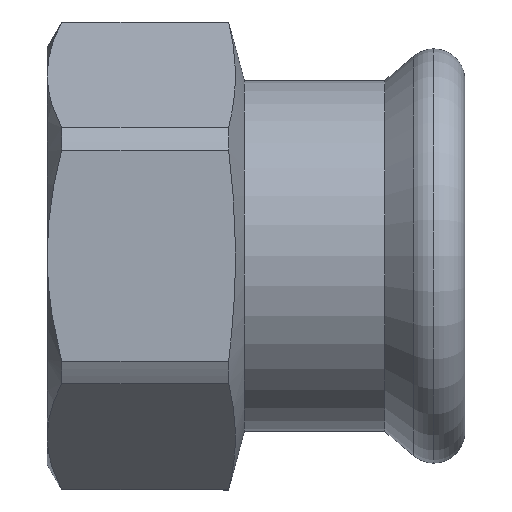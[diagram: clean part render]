
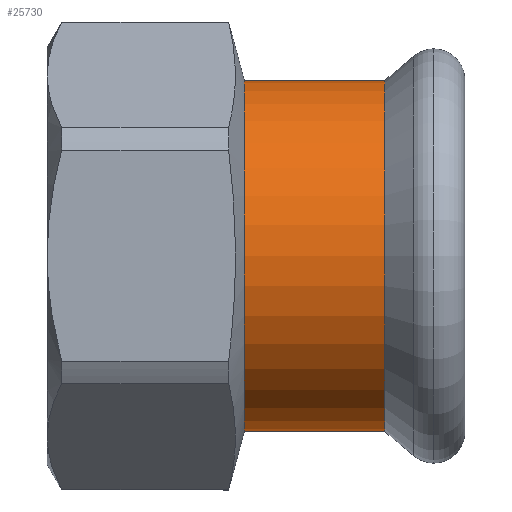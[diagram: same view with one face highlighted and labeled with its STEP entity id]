
A CAD part, top view. The second image highlights one B-rep face of the part: STEP entity #25730.
In plain terms, the highlighted cylindrical face has radius 22.7 mm (diameter 45.4 mm), a partial arc.
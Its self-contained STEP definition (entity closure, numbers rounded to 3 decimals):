
#3470=CARTESIAN_POINT('',(271.514,100.461,
0.));
#3480=VERTEX_POINT('',#3470);
#6030=CARTESIAN_POINT('',(271.514,145.861,0.));
#6040=VERTEX_POINT('',#6030);
#6070=CARTESIAN_POINT('',(271.514,123.161,0.));
#6080=DIRECTION('',(-1.,0.,0.));
#6090=DIRECTION('',(0.,1.,0.));
#6100=AXIS2_PLACEMENT_3D('',#6070,#6080,#6090);
#6110=CIRCLE('',#6100,22.7);
#6120=EDGE_CURVE('',#3480,#6040,#6110,.T.);
#25180=CARTESIAN_POINT('',(289.686,100.461,0.));
#25190=VERTEX_POINT('',#25180);
#25370=CARTESIAN_POINT('',(289.686,145.861,
0.));
#25380=VERTEX_POINT('',#25370);
#25410=CARTESIAN_POINT('',(289.686,123.161,0.));
#25420=DIRECTION('',(1.,0.,0.));
#25430=DIRECTION('',(0.,1.,0.));
#25440=AXIS2_PLACEMENT_3D('',#25410,#25420,#25430);
#25450=CIRCLE('',#25440,22.7);
#25510=CARTESIAN_POINT('',(279.283,123.161,0.));
#25520=DIRECTION('',(-1.,0.,0.));
#25530=DIRECTION('',(0.,1.,0.));
#25540=AXIS2_PLACEMENT_3D('',#25510,#25520,#25530);
#25550=CYLINDRICAL_SURFACE('',#25540,22.7);
#25560=CARTESIAN_POINT('',(279.283,145.861,0.));
#25570=DIRECTION('',(-1.,0.,0.));
#25580=VECTOR('',#25570,1.);
#25590=LINE('',#25560,#25580);
#25600=EDGE_CURVE('',#25380,#6040,#25590,.T.);
#25610=ORIENTED_EDGE('',*,*,#25600,.T.);
#25620=EDGE_CURVE('',#25380,#25190,#25450,.T.);
#25630=ORIENTED_EDGE('',*,*,#25620,.F.);
#25640=CARTESIAN_POINT('',(279.283,100.461,
0.));
#25650=DIRECTION('',(-1.,0.,0.));
#25660=VECTOR('',#25650,1.);
#25670=LINE('',#25640,#25660);
#25680=EDGE_CURVE('',#25190,#3480,#25670,.T.);
#25690=ORIENTED_EDGE('',*,*,#25680,.F.);
#25700=ORIENTED_EDGE('',*,*,#6120,.F.);
#25710=EDGE_LOOP('',(#25700,#25690,#25630,#25610));
#25720=FACE_OUTER_BOUND('',#25710,.T.);
#25730=ADVANCED_FACE('',(#25720),#25550,.T.);
